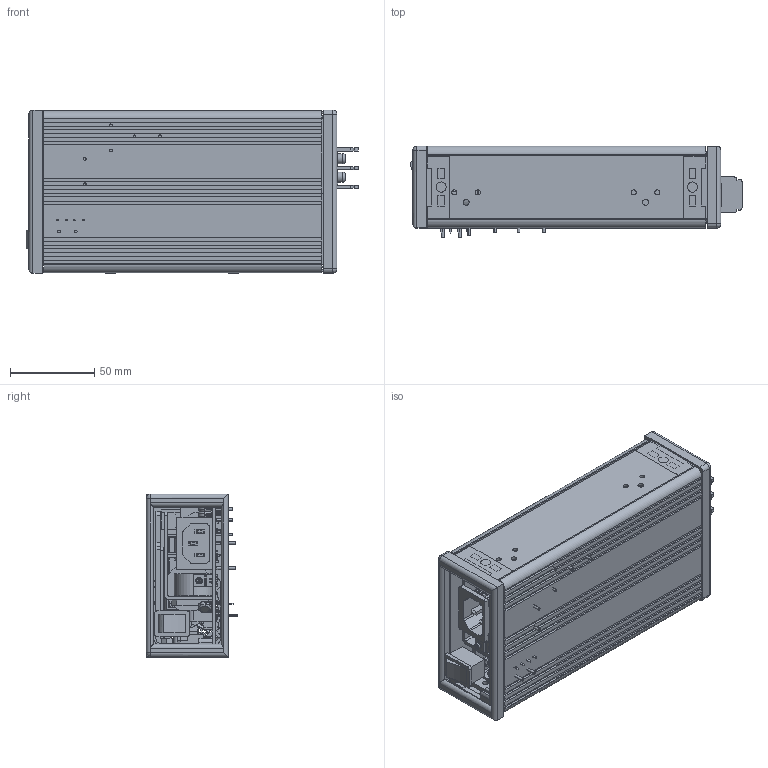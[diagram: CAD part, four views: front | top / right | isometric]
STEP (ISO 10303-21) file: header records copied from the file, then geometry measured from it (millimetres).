
FILE_DESCRIPTION(('Creo Elements/Direct Modeling STEP Export'),'2;1');
FILE_NAME('NPB-360-TB.stp','2022-07-14T11:58:29',(''),(''),'PTC Creo Elements/Direct Modeling STEP processor for AP214 (Solid Model)','PTC Creo Elements/Direct Modeling 19.0E 27-Jun-2016 (C) Parametric Technology GmbH','');
FILE_SCHEMA(('AUTOMOTIVE_DESIGN { 1 0 10303 214 1 1 1 1 }'));
Length unit declared in the file: millimetre
Products named in the file (192): _X2_8F9351FA_X0_TB_X2_67-490810.PRT; _X2_8F9351FA_X0_TB_X2_67-491140.ASM; _X2_87BA4E1D_X0__3-501560.PRT; _X2_87BA4E1D_X0__3-501890.ASM; _X2_87BA4E1D_X0__2_2_1-512950.PRT; _X2_87BA4E1D_X0__2_2_1-513280.ASM; _X2_87BA4E1D_X0__2_2-524340.PRT; _X2_87BA4E1D_X0__2_2-524670.ASM; _X2_87BA4E1D_X0__2_1-535730.PRT; _X2_87BA4E1D_X0__2_1-536060.ASM; _X2_87BA4E1D_X0__2-547120.PRT; _X2_87BA4E1D_X0__2-547450.ASM; _X2_87BA4E1D_X0__1-558200.ASM; _X2_70ED654F_X0_-567110.PRT; _X2_70ED654F_X0_-567440.ASM; _X2_63A57EBF7AEF5B50_X0_-615800.PRT; _X2_63A57EBF7AEF5B50_X0_-616130.ASM; _X2_538B654F_X0_-625040.PRT; _X2_538B654F_X0_-625370.ASM; _X2_516D89D287BA6BCD_X0_-628460.PRT; _X2_516D89D287BA6BCD_X0_-628790.ASM; DDD_1-637320.PRT; DDD_1_1.ASM; DDD_1-637930.ASM; Y_1_1_1_1_1_1_1_1-646840.PRT; Y_1_1_1_1_1_1_1_1-647170.ASM; Y_1_1_1_1_1_1_1-656080.PRT; Y_1_1_1_1_1_1_1-656410.ASM; Y_1_1_1_1_1_1-665320.PRT; Y_1_1_1_1_1_1-665650.ASM; Y_1_1_1_1_1-674560.PRT; Y_1_1_1_1_1-674890.ASM; Y_1_1_1_1-683800.PRT; Y_1_1_1_1-684130.ASM; Y_1_1_1-693040.PRT; Y_1_1_1-693370.ASM; Y_1_1-702280.PRT; Y_1_1-702610.ASM; X_X2_75355BB9_X0__1-705740.PRT; X_X2_75355BB9_X0__1-706070.ASM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
Assembly tree (194 placements, depth 3):
  NPB-360-TB.stp
    11-1477850.ASM
      11-1477520.PRT
    11-1468820.ASM
      11-1468490.PRT
    11_1-1462600.ASM
      11_1-1462270.PRT
    1GG1HS-SZ139-1456380.ASM
      1GG1HS-SZ139-1456050.PRT
    1GG1HS-SZ142-1428970.ASM
      1GG1HS-SZ142-1428640.PRT
    1GG1HS-SZ142-1-1419100.ASM
      1GG1HS-SZ142-1-1418770.PRT
    1GG1HS-SZ143-1413700.ASM
      1GG1HS-SZ143-1413370.PRT
    1GG2MHS052A-1401780.ASM
      1GG2MHS052A-1401450.PRT
    1GG2MHS052A_1-1397040.ASM
      1GG2MHS052A_1-1396710.PRT
    1GG2MHS052A_2-1392300.ASM
      1GG2MHS052A_2-1391970.PRT
    1GG4CU-SZ039-OLD-1388200.ASM
      1GG4CU-SZ039-OLD-1387870.PRT
    1GG4CU-SZ039_1-1373210.ASM
      1GG4CU-SZ039_1-1372880.PRT
    1GG4CU-SZ041-1354720.ASM
      1GG4CU-SZ041-1354390.PRT
    1HH2NPB-240A-1345370.ASM
      1HH2NPB-240A-1345040.PRT
    1N_PRT_PRT-1342650.ASM
      1N_PRT_PRT-1342040.PRT
    1N_PRT_PRT_4.ASM
      1N_PRT_PRT-1342040.PRT
    26D77668-81B1-466B-87E3-1323990.ASM
      26D77668-81B1-466B-87E3-1323660.PRT
    26D77668-81B1-466B-87E3-1310890.ASM
      26D77668-81B1-466B-87E3-1310560.PRT
    BBNEPC42CY150513LSD_PRT-1300220.ASM
      BBNEPC42CY150513LSD_PRT-1299890.PRT
    BBNEPC42CY150513LSD_PRT-1220780.ASM
      BBNEPC42CY150513LSD_PRT-1218470.PRT
    C1.PRT
    C1_1-1132390.ASM
      C1_1-1132060.PRT
    C1_1_1-1131050.ASM
      C1_1_1-1130720.PRT
    C1_1_1_1-1129710.ASM
      C1_1_1_1-1129380.PRT
    C1_1_1_1_1-1128370.ASM
      C1_1_1_1_1-1128040.PRT
    C2-1127030.ASM
      C2-1126700.PRT
    C3-1125690.ASM
      C3-1125360.PRT
    C3-1124350.ASM
      C3-1124020.PRT
    C3_1-1123010.ASM
      C3_1-1122680.PRT
    C3_1-1121670.ASM
      C3_1-1121340.PRT
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Bounding box: 196.88 x 54.25 x 97.18 mm (x, y, z)
Volume: 331620.9 mm3; surface area: 329825 mm2
Topology: 97 solids, 97 shells, 4499 faces, 12104 edges, 7978 vertices
Faces by surface type: plane 3401, cylinder 928, torus 81, cone 56, sphere 24, bspline 8, extrusion 1
Entity records: 144053 total; most frequent: CARTESIAN_POINT 27098, ORIENTED_EDGE 23642, DIRECTION 21580, EDGE_CURVE 11821, VECTOR 9436, LINE 9435, VERTEX_POINT 7796, AXIS2_PLACEMENT_3D 6072
